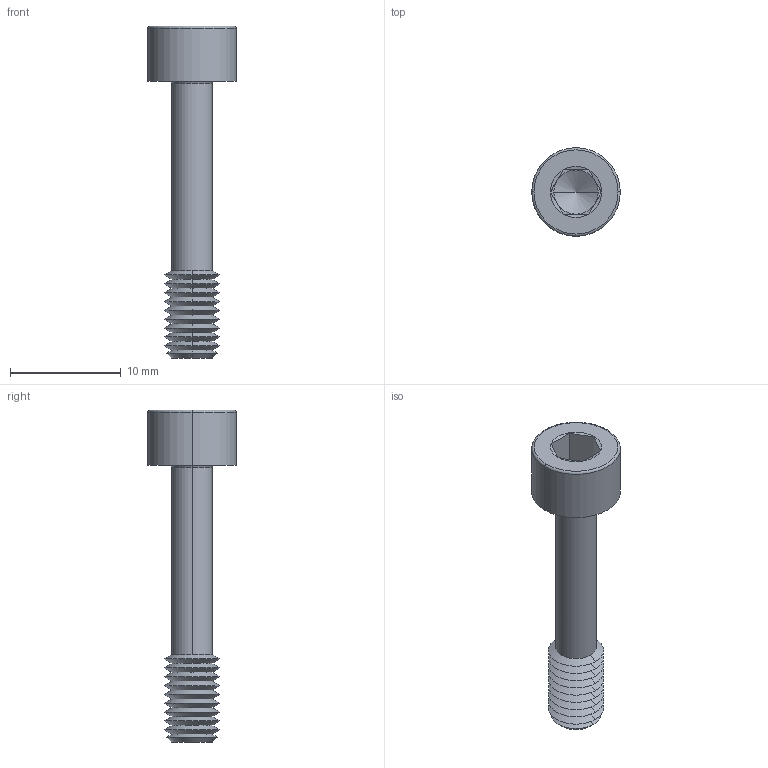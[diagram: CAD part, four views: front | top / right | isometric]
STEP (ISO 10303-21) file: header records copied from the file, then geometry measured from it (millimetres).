
FILE_DESCRIPTION (( 'STEP AP203' ), '1' );
FILE_NAME ('P0154.050-025-BL.step', '2024-06-17T11:26:58', ( '' ), ( '' ), 'SwSTEP 2.0', 'SolidWorks 2019', '' );
FILE_SCHEMA (( 'CONFIG_CONTROL_DESIGN' ));
Length unit declared in the file: millimetre
Products named in the file (1): P0154.050-025-BL
Bounding box: 8 x 8 x 30 mm (x, y, z)
Volume: 489.7 mm3; surface area: 687.4 mm2
Topology: 1 solids, 1 shells, 71 faces, 144 edges, 75 vertices
Faces by surface type: cone 48, plane 15, torus 4, cylinder 4
Entity records: 1887 total; most frequent: DIRECTION 352, CARTESIAN_POINT 315, ORIENTED_EDGE 284, AXIS2_PLACEMENT_3D 144, EDGE_CURVE 142, VERTEX_POINT 75, EDGE_LOOP 73, CIRCLE 72
